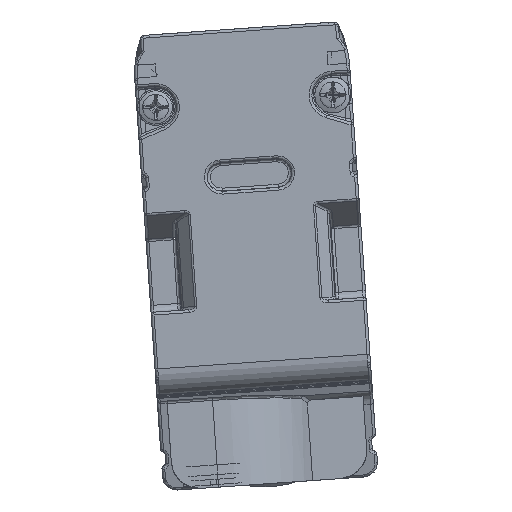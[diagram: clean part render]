
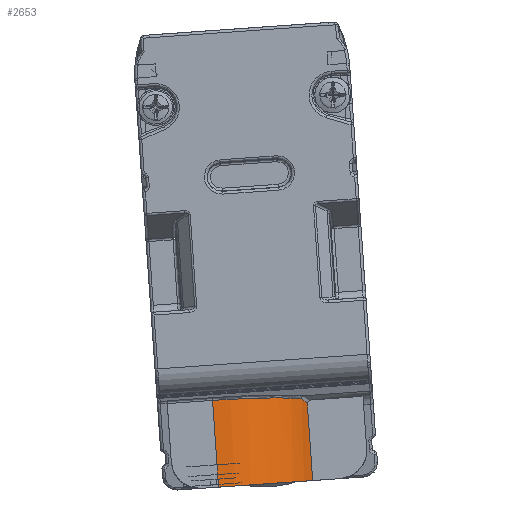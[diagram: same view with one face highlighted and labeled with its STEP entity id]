
A CAD part, front view. The second image highlights one B-rep face of the part: STEP entity #2653.
In plain terms, the highlighted cylindrical face has radius 7.5 mm (diameter 15 mm), a partial arc.
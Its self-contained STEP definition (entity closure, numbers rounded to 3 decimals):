
#1276=ELLIPSE('',#23168,7.53,7.5);
#1619=B_SPLINE_CURVE_WITH_KNOTS('',3,(#43128,#43129,#43130,#43131,#43132,
#43133,#43134),.UNSPECIFIED.,.F.,.F.,(4,3,4),(0.,0.485,1.),.UNSPECIFIED.);
#2653=ADVANCED_FACE('',(#4018),#3084,.T.);
#3084=CYLINDRICAL_SURFACE('',#23170,7.5);
#4018=FACE_OUTER_BOUND('',#5124,.T.);
#5124=EDGE_LOOP('',(#13371,#13372,#13373,#13374,#13375));
#6662=LINE('',#43125,#8187);
#6663=LINE('',#43138,#8188);
#8187=VECTOR('',#29272,1.);
#8188=VECTOR('',#29275,1.);
#13371=ORIENTED_EDGE('',*,*,#19214,.T.);
#13372=ORIENTED_EDGE('',*,*,#19215,.T.);
#13373=ORIENTED_EDGE('',*,*,#19216,.T.);
#13374=ORIENTED_EDGE('',*,*,#19217,.T.);
#13375=ORIENTED_EDGE('',*,*,#19218,.F.);
#15923=VERTEX_POINT('',#43126);
#15924=VERTEX_POINT('',#43127);
#15925=VERTEX_POINT('',#43135);
#15926=VERTEX_POINT('',#43137);
#15927=VERTEX_POINT('',#43139);
#19214=EDGE_CURVE('',#15923,#15924,#6662,.T.);
#19215=EDGE_CURVE('',#15924,#15925,#1619,.T.);
#19216=EDGE_CURVE('',#15925,#15926,#1276,.T.);
#19217=EDGE_CURVE('',#15926,#15927,#6663,.T.);
#19218=EDGE_CURVE('',#15923,#15927,#20718,.T.);
#20718=CIRCLE('',#23169,7.5);
#23168=AXIS2_PLACEMENT_3D('',#43136,#29273,#29274);
#23169=AXIS2_PLACEMENT_3D('',#43140,#29276,#29277);
#23170=AXIS2_PLACEMENT_3D('',#43141,#29278,#29279);
#29272=DIRECTION('',(-0.07,0.,0.998));
#29273=DIRECTION('',(0.069,-0.089,-0.994));
#29274=DIRECTION('',(0.006,0.996,-0.089));
#29275=DIRECTION('',(0.07,0.,-0.998));
#29276=DIRECTION('',(0.07,0.,-0.998));
#29277=DIRECTION('',(0.998,0.,0.07));
#29278=DIRECTION('',(0.07,0.,-0.998));
#29279=DIRECTION('',(0.,-1.,0.));
#43125=CARTESIAN_POINT('',(-40.701,-920.597,14.888));
#43126=CARTESIAN_POINT('',(-40.701,-920.597,14.888));
#43127=CARTESIAN_POINT('',(-41.088,-920.597,20.435));
#43128=CARTESIAN_POINT('',(-41.088,-920.597,20.435));
#43129=CARTESIAN_POINT('',(-41.139,-920.686,20.528));
#43130=CARTESIAN_POINT('',(-41.198,-920.793,20.603));
#43131=CARTESIAN_POINT('',(-41.263,-920.905,20.654));
#43132=CARTESIAN_POINT('',(-41.332,-921.024,20.708));
#43133=CARTESIAN_POINT('',(-41.408,-921.152,20.738));
#43134=CARTESIAN_POINT('',(-41.487,-921.278,20.743));
#43135=CARTESIAN_POINT('',(-41.487,-921.278,20.743));
#43136=CARTESIAN_POINT('',(-47.816,-917.318,19.944));
#43137=CARTESIAN_POINT('',(-47.863,-924.818,20.616));
#43138=CARTESIAN_POINT('',(-47.667,-924.818,17.815));
#43139=CARTESIAN_POINT('',(-47.43,-924.818,14.418));
#43140=CARTESIAN_POINT('',(-47.43,-917.318,14.418));
#43141=CARTESIAN_POINT('',(-52.434,-917.318,85.982));
